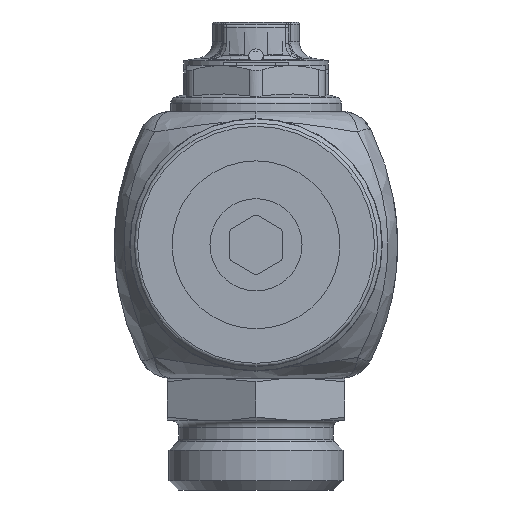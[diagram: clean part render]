
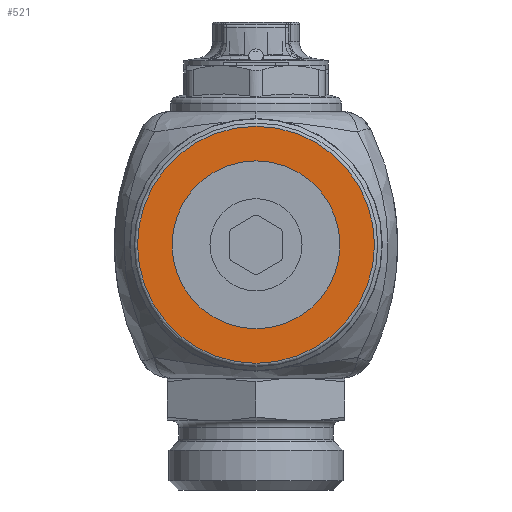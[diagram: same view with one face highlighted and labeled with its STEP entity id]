
A CAD part, front view. The second image highlights one B-rep face of the part: STEP entity #521.
In plain terms, the highlighted planar face has unit normal (0, -1, 0).
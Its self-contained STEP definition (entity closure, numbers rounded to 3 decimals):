
#521=ADVANCED_FACE('',(#12886,#12888),#12890,.F.);
#12886=FACE_BOUND('',#12887,.T.);
#12887=EDGE_LOOP('',(#15878));
#12888=FACE_BOUND('',#12889,.T.);
#12889=EDGE_LOOP('',(#15879));
#12890=PLANE('',#12891);
#12891=AXIS2_PLACEMENT_3D('',#12892,#12893,#12894);
#12892=CARTESIAN_POINT('',(0.,-145.75,0.));
#12893=DIRECTION('',(0.,1.,0.));
#12894=DIRECTION('',(-1.,0.,0.));
#15878=ORIENTED_EDGE('',*,*,#23004,.T.);
#15879=ORIENTED_EDGE('',*,*,#23037,.T.);
#23004=EDGE_CURVE('',#25913,#25913,#25914,.T.);
#23037=EDGE_CURVE('',#25968,#25968,#25969,.F.);
#25913=VERTEX_POINT('',#39727);
#25914=CIRCLE('',#39728,18.);
#25968=VERTEX_POINT('',#39860);
#25969=CIRCLE('',#39861,12.75);
#39727=CARTESIAN_POINT('',(18.,-145.75,0.));
#39728=AXIS2_PLACEMENT_3D('',#39729,#39730,#39731);
#39729=CARTESIAN_POINT('',(0.,-145.75,0.));
#39730=DIRECTION('',(0.,-1.,0.));
#39731=DIRECTION('',(1.,0.,0.));
#39860=CARTESIAN_POINT('',(12.75,-145.75,0.));
#39861=AXIS2_PLACEMENT_3D('',#39862,#39863,#39864);
#39862=CARTESIAN_POINT('',(0.,-145.75,0.));
#39863=DIRECTION('',(0.,-1.,0.));
#39864=DIRECTION('',(1.,0.,0.));
